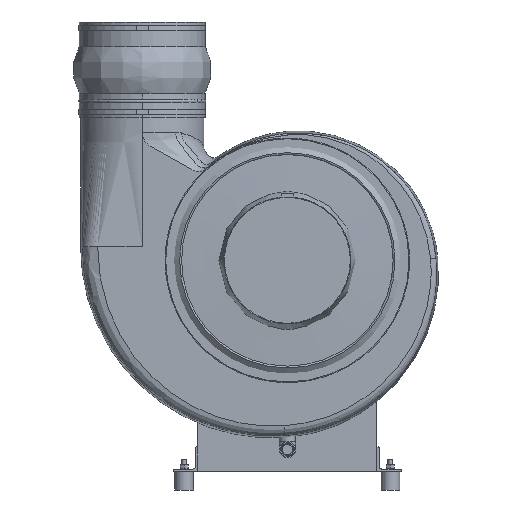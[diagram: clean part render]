
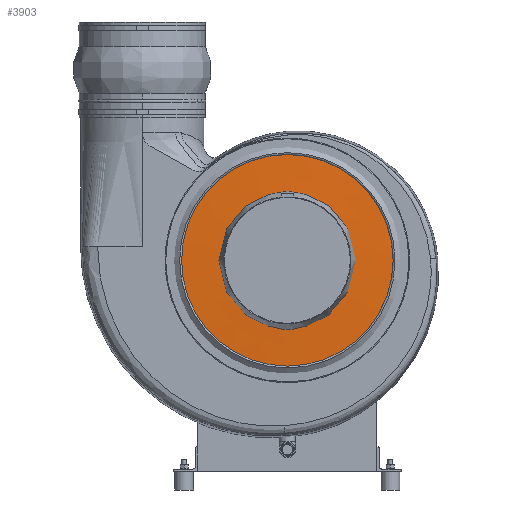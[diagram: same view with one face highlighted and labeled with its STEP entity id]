
A CAD part, front view. The second image highlights one B-rep face of the part: STEP entity #3903.
In plain terms, the highlighted conical face has half-angle 87.858 degrees and reference radius 135.667 mm.
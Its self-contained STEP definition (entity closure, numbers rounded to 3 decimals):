
#3903 = ADVANCED_FACE( '', ( #8076, #8077 ), #8078, .T. );
#8076 = FACE_BOUND( '', #30450, .T. );
#8077 = FACE_OUTER_BOUND( '', #30451, .T. );
#8078 = CONICAL_SURFACE( '', #30452, 135.667, 1.533 );
#30450 = EDGE_LOOP( '', ( #44660 ) );
#30451 = EDGE_LOOP( '', ( #44661 ) );
#30452 = AXIS2_PLACEMENT_3D( '', #44662, #44663, #44664 );
#44660 = ORIENTED_EDGE( '', *, *, #49613, .F. );
#44661 = ORIENTED_EDGE( '', *, *, #50703, .T. );
#44662 = CARTESIAN_POINT( '', ( 41.334, 0., 0. ) );
#44663 = DIRECTION( '', ( 1., 0., 0. ) );
#44664 = DIRECTION( '', ( 0., 0., -1. ) );
#49613 = EDGE_CURVE( '', #54924, #54924, #54925, .T. );
#50703 = EDGE_CURVE( '', #56314, #56314, #56315, .T. );
#54924 = VERTEX_POINT( '', #67323 );
#54925 = CIRCLE( '', #67324, 100. );
#56314 = VERTEX_POINT( '', #71351 );
#56315 = CIRCLE( '', #71352, 171.333 );
#67323 = CARTESIAN_POINT( '', ( 40., 0., 100. ) );
#67324 = AXIS2_PLACEMENT_3D( '', #75329, #75330, #75331 );
#71351 = CARTESIAN_POINT( '', ( 42.669, 0., 171.333 ) );
#71352 = AXIS2_PLACEMENT_3D( '', #76243, #76244, #76245 );
#75329 = CARTESIAN_POINT( '', ( 40., 0., 0. ) );
#75330 = DIRECTION( '', ( -1., 0., 0. ) );
#75331 = DIRECTION( '', ( 0., 0., 1. ) );
#76243 = CARTESIAN_POINT( '', ( 42.669, 0., 0. ) );
#76244 = DIRECTION( '', ( -1., 0., 0. ) );
#76245 = DIRECTION( '', ( 0., 0., 1. ) );
